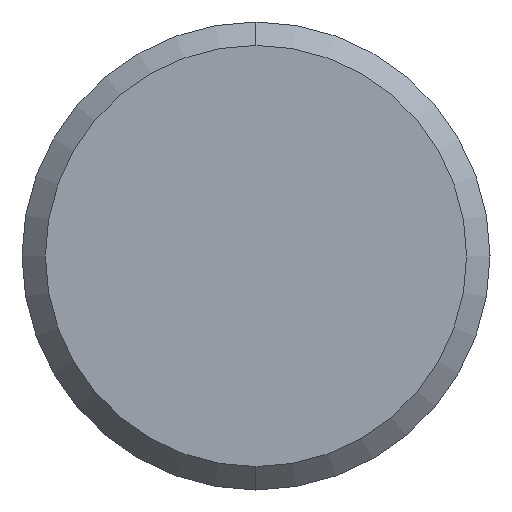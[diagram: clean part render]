
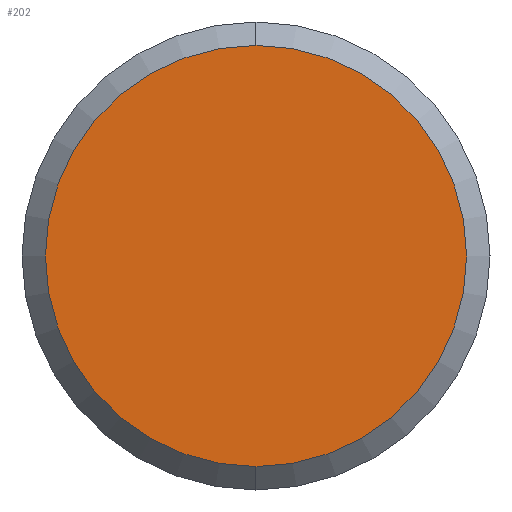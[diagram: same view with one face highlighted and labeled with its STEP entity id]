
A CAD part, left-side view. The second image highlights one B-rep face of the part: STEP entity #202.
In plain terms, the highlighted planar face has unit normal (-1, 0, 0).
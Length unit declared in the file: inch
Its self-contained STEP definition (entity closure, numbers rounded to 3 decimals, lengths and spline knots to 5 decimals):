
#9 = CARTESIAN_POINT ( 'NONE',  ( 0., 0., -0.35433 ) ) ;
#16 = DIRECTION ( 'NONE',  ( 0., 0., 1. ) ) ;
#29 = DIRECTION ( 'NONE',  ( 1., 0., 0. ) ) ;
#32 = CARTESIAN_POINT ( 'NONE',  ( 0., 0., 0.35433 ) ) ;
#43 = ORIENTED_EDGE ( 'NONE', *, *, #416, .F. ) ;
#67 = AXIS2_PLACEMENT_3D ( 'NONE', #401, #29, #367 ) ;
#132 = AXIS2_PLACEMENT_3D ( 'NONE', #394, #425, #16 ) ;
#146 = DIRECTION ( 'NONE',  ( 1., 0., 0. ) ) ;
#147 = VERTEX_POINT ( 'NONE', #9 ) ;
#161 = AXIS2_PLACEMENT_3D ( 'NONE', #294, #146, #287 ) ;
#202 = ADVANCED_FACE ( 'NONE', ( #280 ), #427, .T. ) ;
#217 = ORIENTED_EDGE ( 'NONE', *, *, #453, .F. ) ;
#280 = FACE_OUTER_BOUND ( 'NONE', #288, .T. ) ;
#287 = DIRECTION ( 'NONE',  ( 0., 0., -1. ) ) ;
#288 = EDGE_LOOP ( 'NONE', ( #43, #217 ) ) ;
#294 = CARTESIAN_POINT ( 'NONE',  ( 0., 0., 0. ) ) ;
#321 = CIRCLE ( 'NONE', #67, 0.35433 ) ;
#357 = CIRCLE ( 'NONE', #161, 0.35433 ) ;
#367 = DIRECTION ( 'NONE',  ( 0., 0., -1. ) ) ;
#394 = CARTESIAN_POINT ( 'NONE',  ( 0., 0.35433, 0. ) ) ;
#401 = CARTESIAN_POINT ( 'NONE',  ( 0., 0., 0. ) ) ;
#416 = EDGE_CURVE ( 'NONE', #147, #478, #321, .T. ) ;
#425 = DIRECTION ( 'NONE',  ( -1., 0., 0. ) ) ;
#427 = PLANE ( 'NONE',  #132 ) ;
#453 = EDGE_CURVE ( 'NONE', #478, #147, #357, .T. ) ;
#478 = VERTEX_POINT ( 'NONE', #32 ) ;
